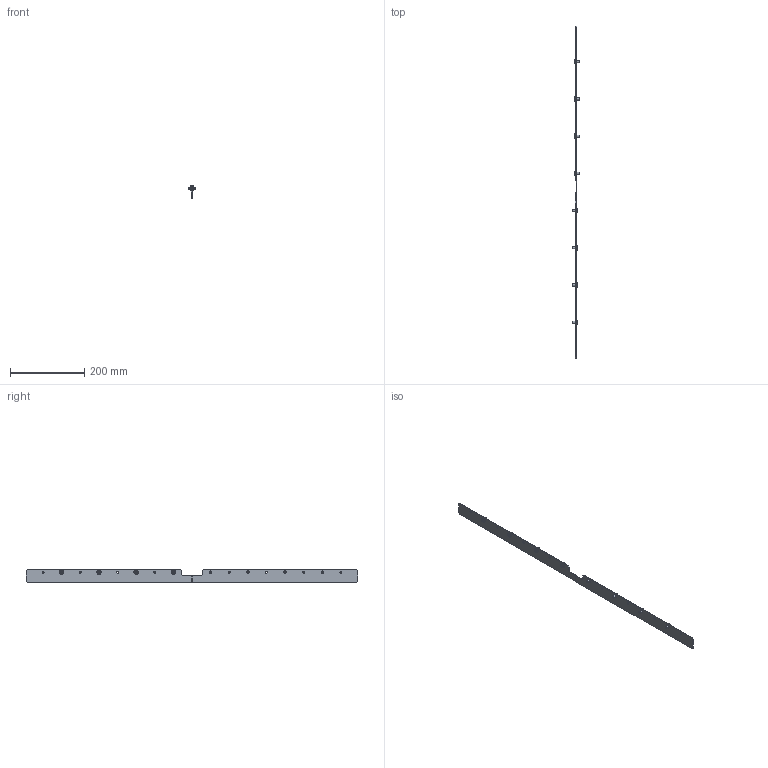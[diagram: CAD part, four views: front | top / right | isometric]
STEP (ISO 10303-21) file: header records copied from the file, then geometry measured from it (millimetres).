
FILE_DESCRIPTION (( 'STEP AP214' ), '1' );
FILE_NAME ('FO-00-BPS1-100 Ïëàíêà ñåêöèîíèðîâàíèÿ êîìïåíñàöèîííàÿ òèïà 1 (12,5 ìì) â øêàô øèðèíîé 1000 ìì.STEP', '2025-08-12T12:10:35', ( '' ), ( '' ), 'SwSTEP 2.0', 'SolidWorks 2023', '' );
FILE_SCHEMA (( 'AUTOMOTIVE_DESIGN' ));
Length unit declared in the file: millimetre
Products named in the file (2): FO-00-BPS1-100 Планка секционирования компенсационная типа 1 (12,5 мм) в шкаф шириной 1000 мм; FO-00-BPS1-100_FORMAT Планка секц. компенсац. тип 1 12,5мм в шкаф 1000 IEK
Assembly tree (2 placements, depth 2):
  FO-00-BPS1-100 Планка секционирования компенсационная типа 1 (12,5 мм) в шкаф шириной 1000 мм
    FO-00-BPS1-100_FORMAT Планка секц. компенсац. тип 1 12,5мм в шкаф 1000 IEK  x2
Bounding box: 18.4 x 891.5 x 35.5 mm (x, y, z)
Volume: 50876.5 mm3; surface area: 67120.6 mm2
Topology: 2 solids, 2 shells, 304 faces, 740 edges, 472 vertices
Faces by surface type: cylinder 184, plane 56, cone 32, torus 32
Entity records: 4629 total; most frequent: DIRECTION 916, CARTESIAN_POINT 763, ORIENTED_EDGE 740, AXIS2_PLACEMENT_3D 389, EDGE_CURVE 370, VERTEX_POINT 236, CIRCLE 232, EDGE_LOOP 176
